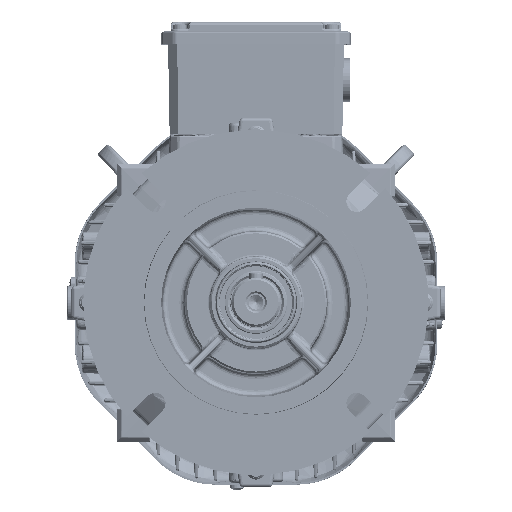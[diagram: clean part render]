
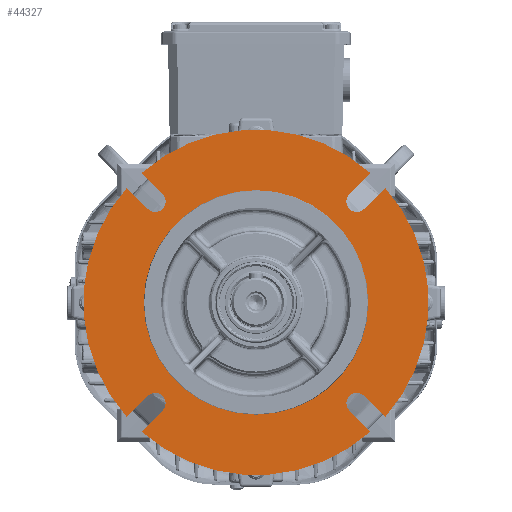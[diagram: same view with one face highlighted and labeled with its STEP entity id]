
A CAD part, top view. The second image highlights one B-rep face of the part: STEP entity #44327.
In plain terms, the highlighted planar face has unit normal (0, 0, 1).
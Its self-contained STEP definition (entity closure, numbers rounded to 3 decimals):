
#25954=LINE('',#245389,#34005);
#25955=LINE('',#245393,#34006);
#25956=LINE('',#245397,#34007);
#25957=LINE('',#245401,#34008);
#25958=LINE('',#245402,#34009);
#25959=LINE('',#245406,#34010);
#25960=LINE('',#245407,#34011);
#25961=LINE('',#245411,#34012);
#34005=VECTOR('',#197635,1.);
#34006=VECTOR('',#197638,1.);
#34007=VECTOR('',#197641,1.);
#34008=VECTOR('',#197644,1.);
#34009=VECTOR('',#197645,1.);
#34010=VECTOR('',#197648,1.);
#34011=VECTOR('',#197649,1.);
#34012=VECTOR('',#197652,1.);
#42032=PLANE('',#177805);
#44327=ADVANCED_FACE('',(#59485,#59486),#42032,.T.);
#59485=FACE_BOUND('',#61329,.T.);
#59486=FACE_BOUND('',#61330,.T.);
#61329=EDGE_LOOP('',(#74148,#74149,#74150,#74151,#74152,#74153,#74154,#74155,
#74156,#74157,#74158,#74159,#74160,#74161,#74162,#74163));
#61330=EDGE_LOOP('',(#74164));
#74148=ORIENTED_EDGE('',*,*,#141450,.F.);
#74149=ORIENTED_EDGE('',*,*,#141451,.F.);
#74150=ORIENTED_EDGE('',*,*,#141452,.F.);
#74151=ORIENTED_EDGE('',*,*,#141453,.T.);
#74152=ORIENTED_EDGE('',*,*,#141454,.F.);
#74153=ORIENTED_EDGE('',*,*,#141455,.F.);
#74154=ORIENTED_EDGE('',*,*,#141456,.F.);
#74155=ORIENTED_EDGE('',*,*,#141446,.T.);
#74156=ORIENTED_EDGE('',*,*,#141457,.F.);
#74157=ORIENTED_EDGE('',*,*,#141458,.F.);
#74158=ORIENTED_EDGE('',*,*,#141459,.F.);
#74159=ORIENTED_EDGE('',*,*,#141440,.T.);
#74160=ORIENTED_EDGE('',*,*,#141460,.F.);
#74161=ORIENTED_EDGE('',*,*,#141461,.F.);
#74162=ORIENTED_EDGE('',*,*,#141462,.F.);
#74163=ORIENTED_EDGE('',*,*,#141434,.T.);
#74164=ORIENTED_EDGE('',*,*,#141463,.T.);
#126086=VERTEX_POINT('',#245319);
#126087=VERTEX_POINT('',#245321);
#126090=VERTEX_POINT('',#245349);
#126091=VERTEX_POINT('',#245351);
#126094=VERTEX_POINT('',#245379);
#126095=VERTEX_POINT('',#245381);
#126098=VERTEX_POINT('',#245390);
#126099=VERTEX_POINT('',#245392);
#126100=VERTEX_POINT('',#245394);
#126101=VERTEX_POINT('',#245396);
#126102=VERTEX_POINT('',#245398);
#126103=VERTEX_POINT('',#245400);
#126104=VERTEX_POINT('',#245403);
#126105=VERTEX_POINT('',#245405);
#126106=VERTEX_POINT('',#245408);
#126107=VERTEX_POINT('',#245410);
#126108=VERTEX_POINT('',#245413);
#141434=EDGE_CURVE('',#126087,#126086,#167415,.T.);
#141440=EDGE_CURVE('',#126091,#126090,#167417,.T.);
#141446=EDGE_CURVE('',#126095,#126094,#167419,.T.);
#141450=EDGE_CURVE('',#126098,#126086,#25954,.T.);
#141451=EDGE_CURVE('',#126099,#126098,#167422,.T.);
#141452=EDGE_CURVE('',#126100,#126099,#25955,.T.);
#141453=EDGE_CURVE('',#126100,#126101,#167423,.T.);
#141454=EDGE_CURVE('',#126102,#126101,#25956,.T.);
#141455=EDGE_CURVE('',#126103,#126102,#167424,.T.);
#141456=EDGE_CURVE('',#126095,#126103,#25957,.T.);
#141457=EDGE_CURVE('',#126104,#126094,#25958,.T.);
#141458=EDGE_CURVE('',#126105,#126104,#167425,.T.);
#141459=EDGE_CURVE('',#126091,#126105,#25959,.T.);
#141460=EDGE_CURVE('',#126106,#126090,#25960,.T.);
#141461=EDGE_CURVE('',#126107,#126106,#167426,.T.);
#141462=EDGE_CURVE('',#126087,#126107,#25961,.T.);
#141463=EDGE_CURVE('',#126108,#126108,#167427,.T.);
#167415=CIRCLE('',#177786,100.);
#167417=CIRCLE('',#177790,100.);
#167419=CIRCLE('',#177794,100.);
#167422=CIRCLE('',#177799,6.);
#167423=CIRCLE('',#177800,100.);
#167424=CIRCLE('',#177801,6.);
#167425=CIRCLE('',#177802,6.);
#167426=CIRCLE('',#177803,6.);
#167427=CIRCLE('',#177804,65.);
#177786=AXIS2_PLACEMENT_3D('',#245320,#197604,#197605);
#177790=AXIS2_PLACEMENT_3D('',#245350,#197614,#197615);
#177794=AXIS2_PLACEMENT_3D('',#245380,#197624,#197625);
#177799=AXIS2_PLACEMENT_3D('',#245391,#197636,#197637);
#177800=AXIS2_PLACEMENT_3D('',#245395,#197639,#197640);
#177801=AXIS2_PLACEMENT_3D('',#245399,#197642,#197643);
#177802=AXIS2_PLACEMENT_3D('',#245404,#197646,#197647);
#177803=AXIS2_PLACEMENT_3D('',#245409,#197650,#197651);
#177804=AXIS2_PLACEMENT_3D('',#245412,#197653,#197654);
#177805=AXIS2_PLACEMENT_3D('',#245414,#197655,#197656);
#197604=DIRECTION('',(0.,0.,1.));
#197605=DIRECTION('',(-1.,0.,0.));
#197614=DIRECTION('',(0.,0.,1.));
#197615=DIRECTION('',(-1.,0.,0.));
#197624=DIRECTION('',(0.,0.,1.));
#197625=DIRECTION('',(-1.,0.,0.));
#197635=DIRECTION('',(-0.707,0.707,0.));
#197636=DIRECTION('',(0.,0.,1.));
#197637=DIRECTION('',(0.,1.,0.));
#197638=DIRECTION('',(0.707,-0.707,0.));
#197639=DIRECTION('',(0.,0.,1.));
#197640=DIRECTION('',(-1.,0.,0.));
#197641=DIRECTION('',(-0.707,-0.707,0.));
#197642=DIRECTION('',(0.,0.,1.));
#197643=DIRECTION('',(-1.,0.,0.));
#197644=DIRECTION('',(0.707,0.707,0.));
#197645=DIRECTION('',(0.707,-0.707,0.));
#197646=DIRECTION('',(0.,0.,1.));
#197647=DIRECTION('',(0.,-1.,0.));
#197648=DIRECTION('',(-0.707,0.707,0.));
#197649=DIRECTION('',(0.707,0.707,0.));
#197650=DIRECTION('',(0.,0.,1.));
#197651=DIRECTION('',(1.,0.,0.));
#197652=DIRECTION('',(-0.707,-0.707,0.));
#197653=DIRECTION('',(0.,0.,-1.));
#197654=DIRECTION('',(-1.,0.,0.));
#197655=DIRECTION('',(0.,0.,1.));
#197656=DIRECTION('',(1.,0.,0.));
#245319=CARTESIAN_POINT('',(-66.341,74.826,60.));
#245320=CARTESIAN_POINT('',(0.,0.,
60.));
#245321=CARTESIAN_POINT('',(66.341,74.826,60.));
#245349=CARTESIAN_POINT('',(74.826,66.341,60.));
#245350=CARTESIAN_POINT('',(0.,0.,
60.));
#245351=CARTESIAN_POINT('',(74.826,-66.341,60.));
#245379=CARTESIAN_POINT('',(66.341,-74.826,60.));
#245380=CARTESIAN_POINT('',(0.,0.,
60.));
#245381=CARTESIAN_POINT('',(-66.341,-74.826,60.));
#245389=CARTESIAN_POINT('',(-54.094,62.579,60.));
#245390=CARTESIAN_POINT('',(-54.094,62.579,60.));
#245391=CARTESIAN_POINT('',(-58.336,58.336,60.));
#245392=CARTESIAN_POINT('',(-62.579,54.094,60.));
#245393=CARTESIAN_POINT('',(-83.792,75.307,60.));
#245394=CARTESIAN_POINT('',(-74.826,66.341,60.));
#245395=CARTESIAN_POINT('',(0.,0.,
60.));
#245396=CARTESIAN_POINT('',(-74.826,-66.341,60.));
#245397=CARTESIAN_POINT('',(-62.579,-54.094,60.));
#245398=CARTESIAN_POINT('',(-62.579,-54.094,60.));
#245399=CARTESIAN_POINT('',(-58.336,-58.336,60.));
#245400=CARTESIAN_POINT('',(-54.094,-62.579,60.));
#245401=CARTESIAN_POINT('',(-75.307,-83.792,60.));
#245402=CARTESIAN_POINT('',(54.094,-62.579,60.));
#245403=CARTESIAN_POINT('',(54.094,-62.579,60.));
#245404=CARTESIAN_POINT('',(58.336,-58.336,60.));
#245405=CARTESIAN_POINT('',(62.579,-54.094,60.));
#245406=CARTESIAN_POINT('',(83.792,-75.307,60.));
#245407=CARTESIAN_POINT('',(62.579,54.094,60.));
#245408=CARTESIAN_POINT('',(62.579,54.094,60.));
#245409=CARTESIAN_POINT('',(58.336,58.336,60.));
#245410=CARTESIAN_POINT('',(54.094,62.579,60.));
#245411=CARTESIAN_POINT('',(75.307,83.792,60.));
#245412=CARTESIAN_POINT('',(0.,0.,60.));
#245413=CARTESIAN_POINT('',(-65.,0.,60.));
#245414=CARTESIAN_POINT('',(0.,0.,60.));
